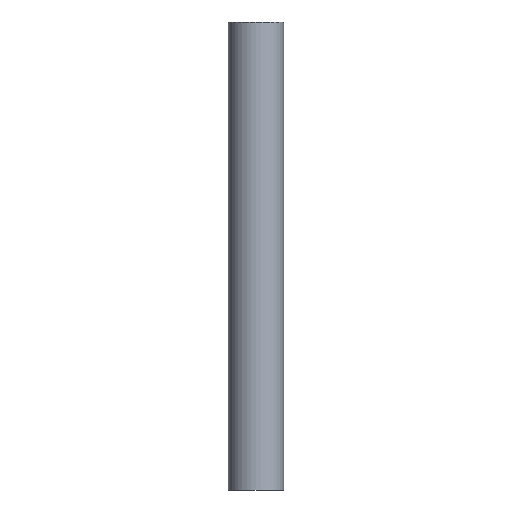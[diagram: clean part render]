
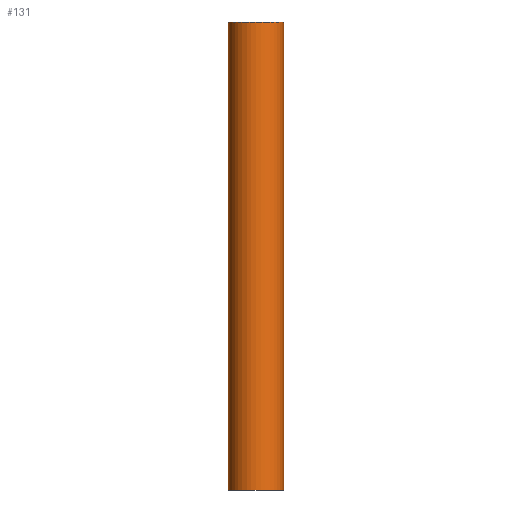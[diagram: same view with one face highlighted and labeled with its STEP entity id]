
A CAD part, front view. The second image highlights one B-rep face of the part: STEP entity #131.
In plain terms, the highlighted cylindrical face has radius 19.5 mm (diameter 39 mm), a partial arc.
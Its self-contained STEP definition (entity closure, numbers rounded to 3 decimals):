
#22 = VERTEX_POINT('',#23);
#23 = CARTESIAN_POINT('',(19.5,0.,329.999));
#24 = VERTEX_POINT('',#25);
#25 = CARTESIAN_POINT('',(-19.5,0.,329.999));
#32 = EDGE_CURVE('',#24,#22,#33,.T.);
#33 = CIRCLE('',#34,19.5);
#34 = AXIS2_PLACEMENT_3D('',#35,#36,#37);
#35 = CARTESIAN_POINT('',(0.,0.,329.999));
#36 = DIRECTION('',(0.,0.,1.));
#37 = DIRECTION('',(-1.,0.,0.));
#67 = EDGE_CURVE('',#68,#24,#70,.T.);
#68 = VERTEX_POINT('',#69);
#69 = CARTESIAN_POINT('',(-19.5,0.,0.));
#70 = LINE('',#71,#72);
#71 = CARTESIAN_POINT('',(-19.5,0.,0.));
#72 = VECTOR('',#73,1.);
#73 = DIRECTION('',(0.,0.,1.));
#76 = EDGE_CURVE('',#77,#22,#79,.T.);
#77 = VERTEX_POINT('',#78);
#78 = CARTESIAN_POINT('',(19.5,0.,0.));
#79 = LINE('',#80,#81);
#80 = CARTESIAN_POINT('',(19.5,0.,0.));
#81 = VECTOR('',#82,1.);
#82 = DIRECTION('',(0.,0.,1.));
#100 = EDGE_CURVE('',#68,#77,#101,.T.);
#101 = CIRCLE('',#102,19.5);
#102 = AXIS2_PLACEMENT_3D('',#103,#104,#105);
#103 = CARTESIAN_POINT('',(0.,0.,0.));
#104 = DIRECTION('',(0.,0.,1.));
#105 = DIRECTION('',(-1.,0.,0.));
#131 = ADVANCED_FACE('',(#132),#138,.T.);
#132 = FACE_BOUND('',#133,.T.);
#133 = EDGE_LOOP('',(#134,#135,#136,#137));
#134 = ORIENTED_EDGE('',*,*,#76,.T.);
#135 = ORIENTED_EDGE('',*,*,#32,.F.);
#136 = ORIENTED_EDGE('',*,*,#67,.F.);
#137 = ORIENTED_EDGE('',*,*,#100,.T.);
#138 = CYLINDRICAL_SURFACE('',#139,19.5);
#139 = AXIS2_PLACEMENT_3D('',#140,#141,#142);
#140 = CARTESIAN_POINT('',(0.,0.,0.));
#141 = DIRECTION('',(0.,0.,1.));
#142 = DIRECTION('',(1.,0.,0.));
